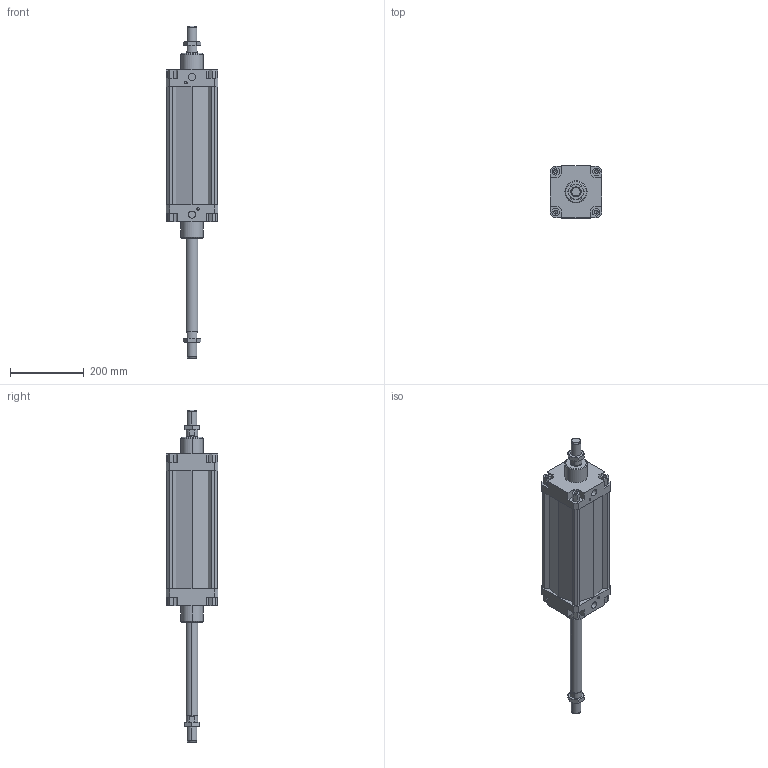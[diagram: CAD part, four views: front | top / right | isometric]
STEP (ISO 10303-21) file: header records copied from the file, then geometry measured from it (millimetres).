
FILE_DESCRIPTION((''),'2;1');
FILE_NAME('I:\DOC-EDP\Lib-3d\1319\CILINDRI\Ø125\1319_125_0250_02.stp','2003-04-08T12:20:41',('maffial1'),(''),'Autodesk Inventor (R) 6.0','Autodesk Inventor (R) 6.0','');
FILE_SCHEMA(('AUTOMOTIVE_DESIGN { 1 0 10303 214 1 1 1 1 }'));
Length unit declared in the file: millimetre
Products named in the file (4): 1319_125_0250_02; CIM04_125_250; CIM03_125_250; 1320_125_18F
Assembly tree (4 placements, depth 2):
  1319_125_0250_02
    CIM04_125_250
    CIM03_125_250
    1320_125_18F  x2
Bounding box: 140 x 140 x 898 mm (x, y, z)
Volume: 7272098.2 mm3; surface area: 459192.9 mm2
Topology: 4 solids, 4 shells, 290 faces, 724 edges, 452 vertices
Faces by surface type: plane 130, bspline 72, cone 60, cylinder 28
Entity records: 8094 total; most frequent: CARTESIAN_POINT 1972, ORIENTED_EDGE 1288, DIRECTION 1160, EDGE_CURVE 644, VECTOR 480, LINE 480, VERTEX_POINT 416, AXIS2_PLACEMENT_3D 340
